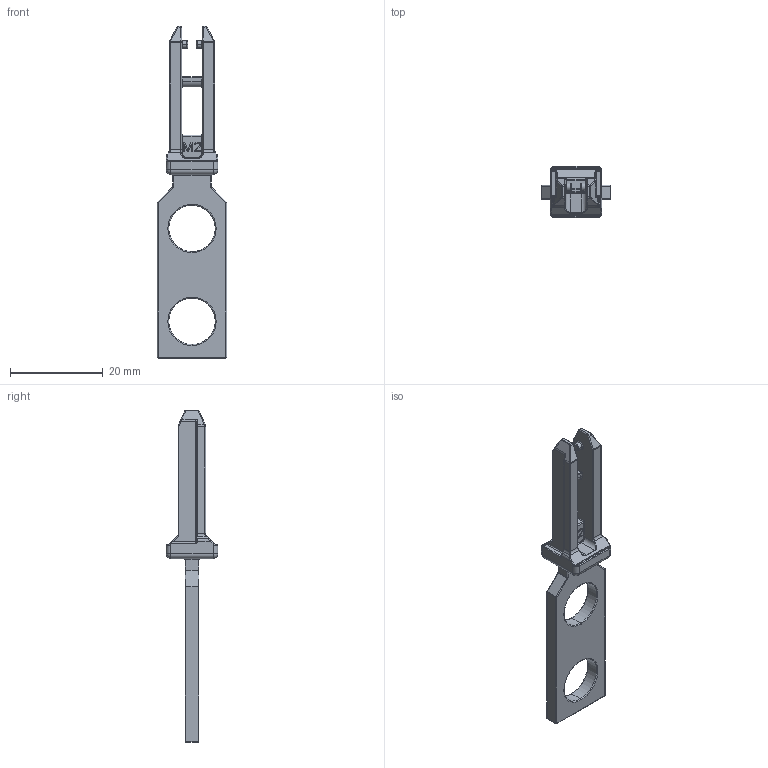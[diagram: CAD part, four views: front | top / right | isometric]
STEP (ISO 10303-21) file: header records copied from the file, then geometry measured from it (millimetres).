
FILE_DESCRIPTION((''),'2;1');
FILE_NAME('2038342','2025-11-19T09:08:28',('s.mayer'),(''),'CREO PARAMETRIC BY PTC INC, 2019292','CREO PARAMETRIC BY PTC INC, 2019292','');
FILE_SCHEMA(('AUTOMOTIVE_DESIGN { 1 0 10303 214 1 1 1 1 }'));
Length unit declared in the file: millimetre
Products named in the file (1): 2038342
Bounding box: 15 x 11.1 x 71.5 mm (x, y, z)
Volume: 2446 mm3; surface area: 2542.6 mm2
Topology: 1 solids, 1 shells, 369 faces, 908 edges, 528 vertices
Faces by surface type: cylinder 143, plane 94, torus 76, bspline 40, sphere 16
Entity records: 16085 total; most frequent: CARTESIAN_POINT 4234, DIRECTION 1836, ORIENTED_EDGE 1784, PRESENTATION_STYLE_ASSIGNMENT 894, STYLED_ITEM 894, CURVE_STYLE 893, EDGE_CURVE 892, AXIS2_PLACEMENT_3D 718
